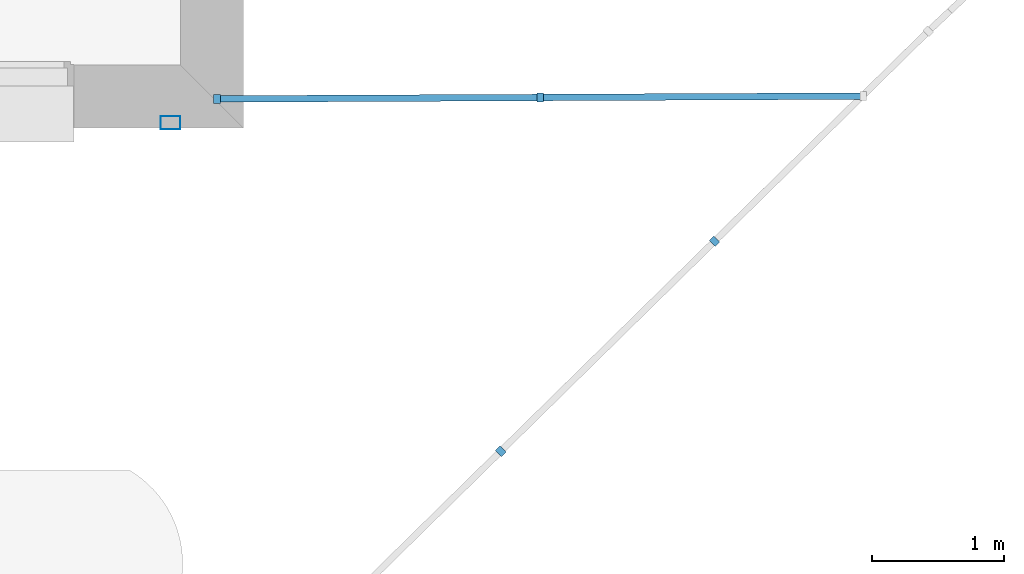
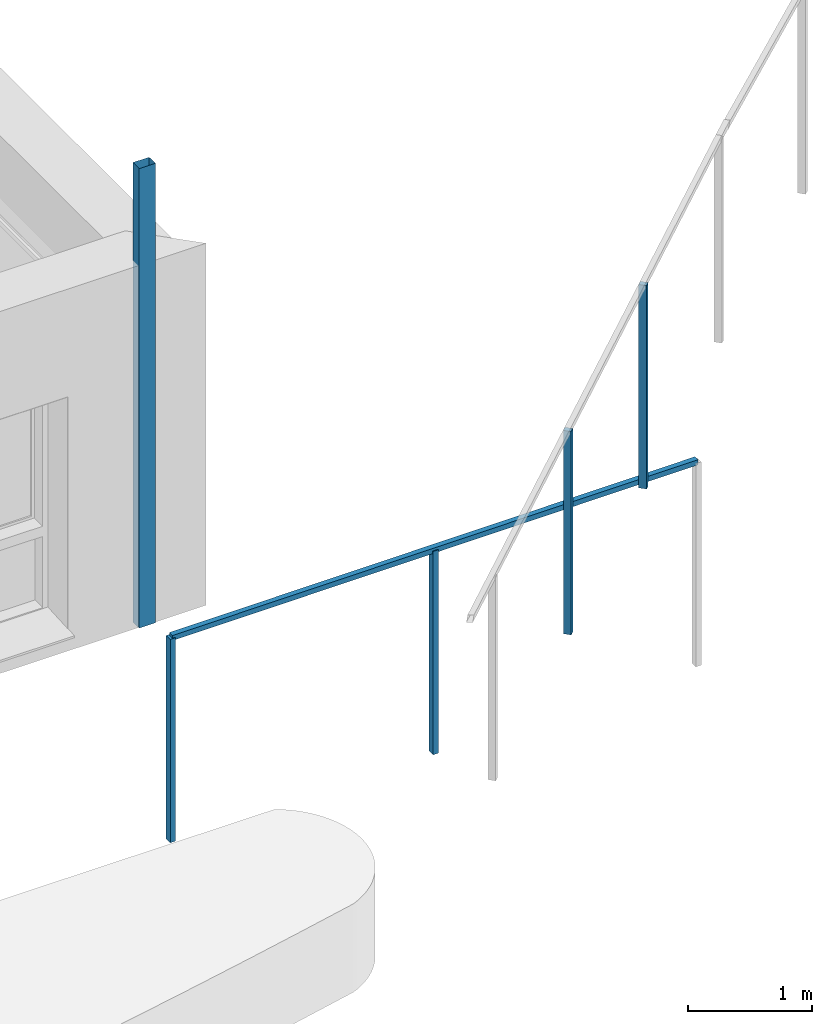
# One storey, part 58 of 91: 5 building element parts, 1 discrete accessory, 2 elements without a shape of their own.
"""IFC2X3 building model written with IfcOpenShell, lengths in metres."""

from ifc_helpers import new_model, entity, si_unit, converted_unit, derived_unit, money_unit, direction, frame, origin_with_axes, place, context, subcontext, project, spatial, open_shell, faceted_brep, surface_model, material, type_object, element, aggregate, save


model = new_model("IFC2X3")

# Units and contexts
model_context = context("Model", 3, precision=1e-05, world=origin_with_axes(), true_north=direction((0.0, 1.0)))
body_context = subcontext(model_context, "Body", "Model", "MODEL_VIEW")
ifc_project = project(units=[si_unit("LENGTHUNIT", "METRE"), si_unit("AREAUNIT", "SQUARE_METRE"), si_unit("VOLUMEUNIT", "CUBIC_METRE"), converted_unit("PLANEANGLEUNIT", "DEGREE", entity("IfcPlaneAngleMeasure", 0.0174532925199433), si_unit("PLANEANGLEUNIT", "RADIAN"), dimensions=[0, 0, 0, 0, 0, 0, 0]), money_unit("EUR"), converted_unit("TIMEUNIT", "Year", entity("IfcTimeMeasure", 31557600.0), si_unit("TIMEUNIT", "SECOND"), dimensions=[0, 0, 1, 0, 0, 0, 0]), si_unit("MASSUNIT", "GRAM", prefix="KILO"), si_unit("THERMODYNAMICTEMPERATUREUNIT", "DEGREE_CELSIUS"), si_unit("LUMINOUSINTENSITYUNIT", "LUMEN"), si_unit("ENERGYUNIT", "JOULE", prefix="MEGA"), derived_unit("THERMALCONDUCTANCEUNIT", [(si_unit("POWERUNIT", "WATT"), 1), (si_unit("LENGTHUNIT", "METRE"), -1), (si_unit("THERMODYNAMICTEMPERATUREUNIT", "KELVIN"), -1)]), derived_unit("SPECIFICHEATCAPACITYUNIT", [(si_unit("ENERGYUNIT", "JOULE"), 1), (si_unit("MASSUNIT", "GRAM", prefix="KILO"), -1), (si_unit("THERMODYNAMICTEMPERATUREUNIT", "KELVIN"), -1)]), derived_unit("MASSDENSITYUNIT", [(si_unit("MASSUNIT", "GRAM", prefix="KILO"), 1), (si_unit("VOLUMEUNIT", "CUBIC_METRE"), -1)])], contexts=[model_context])

# Site, building, storey
site_placement = place(None, origin_with_axes())
site = spatial("IfcSite", under=ifc_project, at=site_placement, Name="Site", CompositionType="ELEMENT")
building_placement = place(site_placement, origin_with_axes())
building = spatial("IfcBuilding", under=site, at=building_placement, Name="Bâtiment", CompositionType="ELEMENT")
storey_placement = place(building_placement, origin_with_axes())
storey = spatial("IfcBuildingStorey", under=building, at=storey_placement, Name="RDC", CompositionType="ELEMENT", Elevation=0.0)

# Discrete accessory
discrete_accessory_type = type_object("IfcDiscreteAccessoryType", Name="Tuyau descente 27")
discrete_accessory_placement = place(storey_placement, frame((59.72499999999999, -27.39556215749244, 0.0), z_axis=(0.0, 0.0, 1.0), x_axis=(1.0, 0.0, 0.0)))
element("IfcDiscreteAccessory", 1, at=discrete_accessory_placement, inside=storey, type_object=discrete_accessory_type, Name="D.E.P", context=body_context, shape_type="SurfaceModel", body=[
    surface_model("IfcShellBasedSurfaceModel", [(-0.075, -0.05, 4.52), (-0.075, 0.05, 4.52), (-0.075, 0.05, 0.0), (-0.075, -0.05, 0.0), (0.075, 0.05, 4.52), (0.075, 0.05, 0.0), (0.075, -0.05, 4.52), (0.075, -0.05, 0.0)], [open_shell([[[0, 1, 2, 3]], [[1, 4, 5, 2]], [[6, 0, 3, 7]], [[4, 6, 7, 5]]])]),
])

# Proxy, building element parts
building_element_proxy_type = type_object("IfcBuildingElementProxyType", Name="Type de garde-corps", PredefinedType="NOTDEFINED")
proxy_1_placement = place(storey_placement, frame((79.63337255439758, 3.614023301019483, -2.37161404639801), z_axis=(0.0, 0.0, 1.0), x_axis=(1.0, 0.0, 0.0)))
proxy_1 = element("IfcBuildingElementProxy", 2, at=proxy_1_placement, inside=storey, type_object=building_element_proxy_type, Name="RAMPE-004")
ifc_material = material(Name="Acier Galva")
building_element_part_1_placement = place(proxy_1_placement, origin_with_axes())
building_element_part_1 = element("IfcBuildingElementPart", 3, at=building_element_part_1_placement, material=ifc_material, Name="Acier Galva", context=body_context, shape_type="Brep", body=[
    faceted_brep([(-17.36281881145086, -33.50723863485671, 2.903140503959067), (-17.40906990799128, -33.46015534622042, 2.903140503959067), (-17.40906990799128, -33.46015534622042, 4.903140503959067), (-17.36281881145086, -33.50723863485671, 4.903140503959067), (-17.39848796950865, -33.54227734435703, 2.90529804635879), (-17.44473906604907, -33.49519405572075, 2.90529804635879), (-17.44473906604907, -33.49519405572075, 4.90529804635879), (-17.39848796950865, -33.54227734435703, 4.905298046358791)], [[[0, 1, 2, 3]], [[0, 4, 5, 1]], [[1, 5, 6, 2]], [[3, 2, 6, 7]], [[4, 0, 3, 7]], [[5, 4, 7, 6]]]),
])
building_element_part_2_placement = place(proxy_1_placement, origin_with_axes())
building_element_part_2 = element("IfcBuildingElementPart", 4, at=building_element_part_2_placement, material=ifc_material, Name="Acier Galva", context=body_context, shape_type="Brep", body=[
    faceted_brep([(-15.74182546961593, -31.91489617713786, 2.805090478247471), (-15.78807656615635, -31.86781288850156, 2.805090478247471), (-15.78807656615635, -31.86781288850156, 4.80509047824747), (-15.74182546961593, -31.91489617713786, 4.805090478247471), (-15.77749462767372, -31.94993488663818, 2.807248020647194), (-15.82374572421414, -31.90285159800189, 2.807248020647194), (-15.82374572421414, -31.90285159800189, 4.807248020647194), (-15.77749462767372, -31.94993488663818, 4.807248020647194)], [[[0, 1, 2, 3]], [[0, 4, 5, 1]], [[1, 5, 6, 2]], [[3, 2, 6, 7]], [[4, 0, 3, 7]], [[5, 4, 7, 6]]]),
])
aggregate(proxy_1, [building_element_part_1, building_element_part_2])

proxy_2_placement = place(storey_placement, frame((60.07799987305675, -27.23556215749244, -2.37161404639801), z_axis=(0.0, 0.0, 1.0), x_axis=(1.0, 0.0, 0.0)))
proxy_2 = element("IfcBuildingElementProxy", 5, at=proxy_2_placement, inside=storey, type_object=building_element_proxy_type, Name="RAMPE-004")
building_element_part_3_placement = place(proxy_2_placement, origin_with_axes())
building_element_part_3 = element("IfcBuildingElementPart", 6, at=building_element_part_3_placement, material=ifc_material, Name="Acier Galva", context=body_context, shape_type="Brep", body=[
    faceted_brep([(0.02505757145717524, -0.01288868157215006, 0.0), (0.0247640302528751, 0.05311066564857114, 0.0), (0.0247640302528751, 0.05311066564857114, 2.0), (0.02505757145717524, -0.01288868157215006, 2.0), (-0.02494193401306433, -0.01311106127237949, 0.0), (-0.02523547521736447, 0.05288828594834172, 0.0), (-0.02523547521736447, 0.05288828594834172, 2.0), (-0.02494193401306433, -0.01311106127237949, 2.0)], [[[0, 1, 2, 3]], [[0, 4, 5, 1]], [[1, 5, 6, 2]], [[3, 2, 6, 7]], [[4, 0, 3, 7]], [[5, 4, 7, 6]]]),
])
building_element_part_4_placement = place(proxy_2_placement, origin_with_axes())
building_element_part_4 = element("IfcBuildingElementPart", 7, at=building_element_part_4_placement, material=ifc_material, Name="Acier Galva", context=body_context, shape_type="Brep", body=[
    faceted_brep([(2.223797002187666e-05, -0.00499995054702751, 2.025), (2.223797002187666e-05, -0.00499995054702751, 1.975), (4.902126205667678, 0.01680283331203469, 1.975000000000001), (4.902126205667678, 0.01680283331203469, 2.025), (-0.0002001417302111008, 0.04499955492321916, 2.025), (-0.0002001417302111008, 0.04499955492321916, 1.975), (4.901903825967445, 0.06680233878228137, 1.975000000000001), (4.901903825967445, 0.06680233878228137, 2.025)], [[[0, 1, 2, 3]], [[0, 4, 5, 1]], [[1, 5, 6, 2]], [[3, 2, 6, 7]], [[4, 0, 3, 7]], [[5, 4, 7, 6]]]),
])
building_element_part_5_placement = place(proxy_2_placement, origin_with_axes())
building_element_part_5 = element("IfcBuildingElementPart", 8, at=building_element_part_5_placement, material=ifc_material, Name="Acier Galva", context=body_context, shape_type="Brep", body=[
    faceted_brep([(2.476109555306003, -0.001987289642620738, 0.0), (2.475816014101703, 0.06401205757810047, 0.0), (2.475816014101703, 0.06401205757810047, 2.0), (2.476109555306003, -0.001987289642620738, 2.0), (2.426110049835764, -0.002209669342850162, 0.0), (2.425816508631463, 0.06378967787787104, 0.0), (2.425816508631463, 0.06378967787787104, 2.0), (2.426110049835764, -0.002209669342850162, 2.0)], [[[0, 1, 2, 3]], [[0, 4, 5, 1]], [[1, 5, 6, 2]], [[3, 2, 6, 7]], [[4, 0, 3, 7]], [[5, 4, 7, 6]]]),
])
aggregate(proxy_2, [building_element_part_3, building_element_part_4, building_element_part_5])

save(model, "model.ifc")
